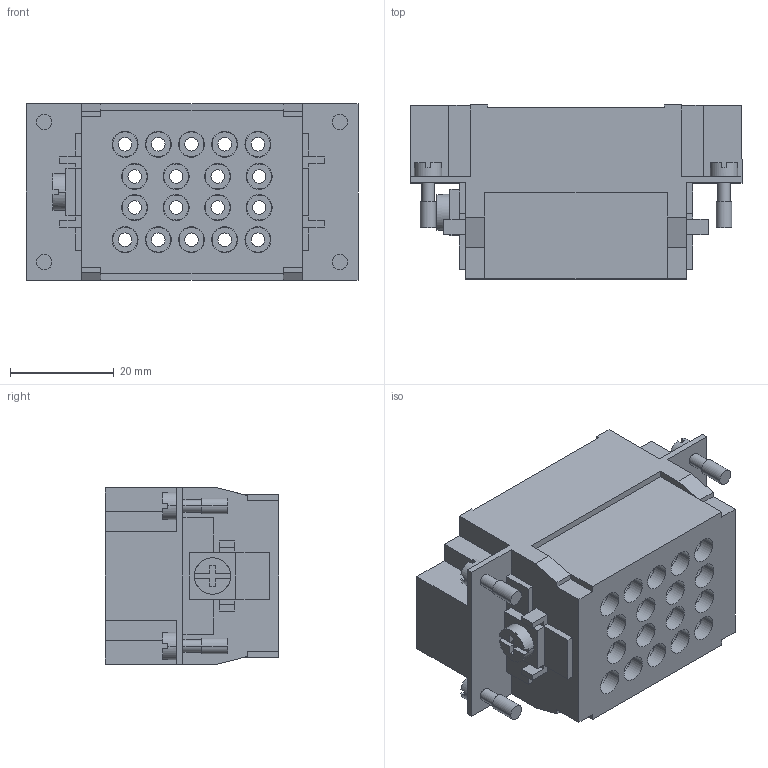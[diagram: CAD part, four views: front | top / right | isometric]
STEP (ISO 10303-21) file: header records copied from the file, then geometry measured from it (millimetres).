
FILE_DESCRIPTION (( 'STEP AP203' ), '1' );
FILE_NAME ('352236.STEP', '2025-06-26T08:40:20', ( '' ), ( '' ), 'SwSTEP 2.0', 'SolidWorks 2018', '' );
FILE_SCHEMA (( 'CONFIG_CONTROL_DESIGN' ));
Length unit declared in the file: millimetre
Products named in the file (1): 352236
Bounding box: 64 x 33.5 x 34 mm (x, y, z)
Volume: 32602.9 mm3; surface area: 19999.6 mm2
Topology: 1 solids, 1 shells, 435 faces, 1088 edges, 724 vertices
Faces by surface type: plane 263, cylinder 172
Entity records: 13219 total; most frequent: DIRECTION 2340, CARTESIAN_POINT 2248, ORIENTED_EDGE 2176, EDGE_CURVE 1088, AXIS2_PLACEMENT_3D 816, VERTEX_POINT 724, VECTOR 708, LINE 708
